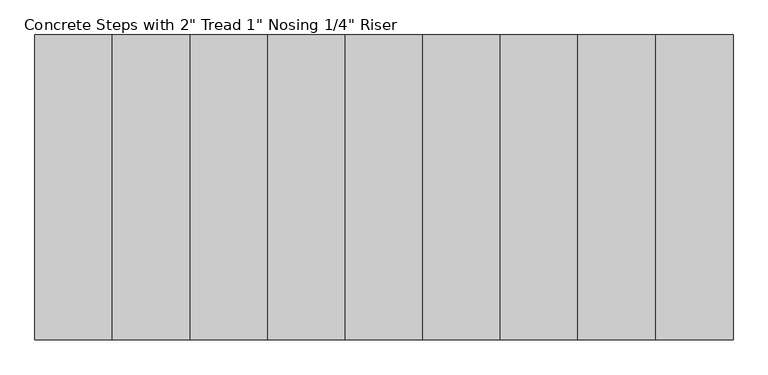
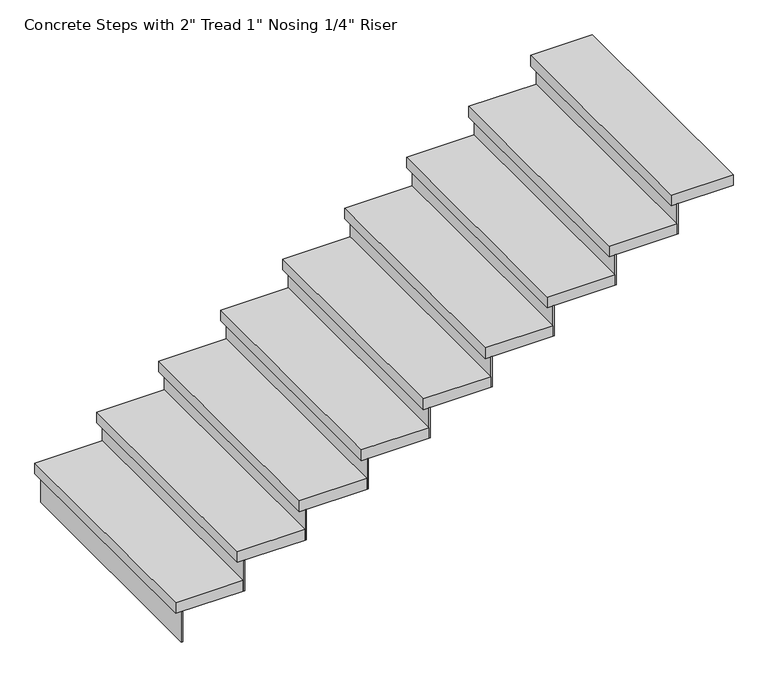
"""IFC4 building model written with IfcOpenShell, lengths in millimetres: stair flight geometry."""

from ifc_helpers import new_model, si_unit, frame, origin, place, context, project, spatial, polyline, outline, extrude, source, transform, mapped, element, save


def stair_flight_ed2f0d5d(model_context):
    return source(origin(), model_context, "Body", "SweptSolid", [
        extrude(outline(polyline([(-14833.3313244, 8376.9937722), (-14839.6813244, 8376.9937722), (-14839.6813244, 9475.3913722), (-14833.3313244, 9475.3913722), (-14833.3313244, 8376.9937722)])), frame((0.0, 0.0, 1690.9142857), z_axis=(0.0, 0.0, 1.0), x_axis=(1.0, 0.0, 0.0)), (0.0, 0.0, 1.0), 145.1428571),
        extrude(outline(polyline([(-14560.2813244, 9475.3913722), (-14560.2813244, 8376.9937722), (-14865.0813244, 8376.9937722), (-14865.0813244, 9475.3913722), (-14560.2813244, 9475.3913722)])), frame((0.0, 0.0, 1836.0571429), z_axis=(0.0, 0.0, 1.0), x_axis=(1.0, 0.0, 0.0)), (0.0, 0.0, 1.0), 50.8),
        extrude(outline(polyline([(-14553.9313244, 8376.9937722), (-14560.2813244, 8376.9937722), (-14560.2813244, 9475.3913722), (-14553.9313244, 9475.3913722), (-14553.9313244, 8376.9937722)])), frame((0.0, 0.0, 1836.0571429), z_axis=(0.0, 0.0, 1.0), x_axis=(1.0, 0.0, 0.0)), (0.0, 0.0, 1.0), 145.1428571),
        extrude(outline(polyline([(-14280.8813244, 9475.3913722), (-14280.8813244, 8376.9937722), (-14585.6813244, 8376.9937722), (-14585.6813244, 9475.3913722), (-14280.8813244, 9475.3913722)])), frame((0.0, 0.0, 1981.2), z_axis=(0.0, 0.0, 1.0), x_axis=(1.0, 0.0, 0.0)), (0.0, 0.0, 1.0), 50.8),
        extrude(outline(polyline([(-14274.5313244, 8376.9937722), (-14280.8813244, 8376.9937722), (-14280.8813244, 9475.3913722), (-14274.5313244, 9475.3913722), (-14274.5313244, 8376.9937722)])), frame((0.0, 0.0, 1981.2), z_axis=(0.0, 0.0, 1.0), x_axis=(1.0, 0.0, 0.0)), (0.0, 0.0, 1.0), 145.1428571),
        extrude(outline(polyline([(-14001.4813244, 9475.3913722), (-14001.4813244, 8376.9937722), (-14306.2813244, 8376.9937722), (-14306.2813244, 9475.3913722), (-14001.4813244, 9475.3913722)])), frame((0.0, 0.0, 2126.3428571), z_axis=(0.0, 0.0, 1.0), x_axis=(1.0, 0.0, 0.0)), (0.0, 0.0, 1.0), 50.8),
        extrude(outline(polyline([(-13995.1313244, 8376.9937722), (-14001.4813244, 8376.9937722), (-14001.4813244, 9475.3913722), (-13995.1313244, 9475.3913722), (-13995.1313244, 8376.9937722)])), frame((0.0, 0.0, 2126.3428571), z_axis=(0.0, 0.0, 1.0), x_axis=(1.0, 0.0, 0.0)), (0.0, 0.0, 1.0), 145.1428571),
        extrude(outline(polyline([(-13722.0813244, 9475.3913722), (-13722.0813244, 8376.9937722), (-14026.8813244, 8376.9937722), (-14026.8813244, 9475.3913722), (-13722.0813244, 9475.3913722)])), frame((0.0, 0.0, 2271.4857143), z_axis=(0.0, 0.0, 1.0), x_axis=(1.0, 0.0, 0.0)), (0.0, 0.0, 1.0), 50.8),
        extrude(outline(polyline([(-13715.7313244, 8376.9937722), (-13722.0813244, 8376.9937722), (-13722.0813244, 9475.3913722), (-13715.7313244, 9475.3913722), (-13715.7313244, 8376.9937722)])), frame((0.0, 0.0, 2271.4857143), z_axis=(0.0, 0.0, 1.0), x_axis=(1.0, 0.0, 0.0)), (0.0, 0.0, 1.0), 145.1428571),
        extrude(outline(polyline([(-13442.6813244, 9475.3913722), (-13442.6813244, 8376.9937722), (-13747.4813244, 8376.9937722), (-13747.4813244, 9475.3913722), (-13442.6813244, 9475.3913722)])), frame((0.0, 0.0, 2416.6285714), z_axis=(0.0, 0.0, 1.0), x_axis=(1.0, 0.0, 0.0)), (0.0, 0.0, 1.0), 50.8),
        extrude(outline(polyline([(-13436.3313244, 8376.9937722), (-13442.6813244, 8376.9937722), (-13442.6813244, 9475.3913722), (-13436.3313244, 9475.3913722), (-13436.3313244, 8376.9937722)])), frame((0.0, 0.0, 2416.6285714), z_axis=(0.0, 0.0, 1.0), x_axis=(1.0, 0.0, 0.0)), (0.0, 0.0, 1.0), 145.1428571),
        extrude(outline(polyline([(-13163.2813244, 9475.3913722), (-13163.2813244, 8376.9937722), (-13468.0813244, 8376.9937722), (-13468.0813244, 9475.3913722), (-13163.2813244, 9475.3913722)])), frame((0.0, 0.0, 2561.7714286), z_axis=(0.0, 0.0, 1.0), x_axis=(1.0, 0.0, 0.0)), (0.0, 0.0, 1.0), 50.8),
        extrude(outline(polyline([(-13156.9313244, 8376.9937722), (-13163.2813244, 8376.9937722), (-13163.2813244, 9475.3913722), (-13156.9313244, 9475.3913722), (-13156.9313244, 8376.9937722)])), frame((0.0, 0.0, 2561.7714286), z_axis=(0.0, 0.0, 1.0), x_axis=(1.0, 0.0, 0.0)), (0.0, 0.0, 1.0), 145.1428571),
        extrude(outline(polyline([(-12883.8813244, 9475.3913722), (-12883.8813244, 8376.9937722), (-13188.6813244, 8376.9937722), (-13188.6813244, 9475.3913722), (-12883.8813244, 9475.3913722)])), frame((0.0, 0.0, 2706.9142857), z_axis=(0.0, 0.0, 1.0), x_axis=(1.0, 0.0, 0.0)), (0.0, 0.0, 1.0), 50.8),
        extrude(outline(polyline([(-12877.5313244, 8376.9937722), (-12883.8813244, 8376.9937722), (-12883.8813244, 9475.3913722), (-12877.5313244, 9475.3913722), (-12877.5313244, 8376.9937722)])), frame((0.0, 0.0, 2706.9142857), z_axis=(0.0, 0.0, 1.0), x_axis=(1.0, 0.0, 0.0)), (0.0, 0.0, 1.0), 145.1428571),
        extrude(outline(polyline([(-12604.4813244, 9475.3913722), (-12604.4813244, 8376.9937722), (-12909.2813244, 8376.9937722), (-12909.2813244, 9475.3913722), (-12604.4813244, 9475.3913722)])), frame((0.0, 0.0, 2852.0571429), z_axis=(0.0, 0.0, 1.0), x_axis=(1.0, 0.0, 0.0)), (0.0, 0.0, 1.0), 50.8),
        extrude(outline(polyline([(-12598.1313244, 8376.9937722), (-12604.4813244, 8376.9937722), (-12604.4813244, 9475.3913722), (-12598.1313244, 9475.3913722), (-12598.1313244, 8376.9937722)])), frame((0.0, 0.0, 2852.0571429), z_axis=(0.0, 0.0, 1.0), x_axis=(1.0, 0.0, 0.0)), (0.0, 0.0, 1.0), 145.1428571),
        extrude(outline(polyline([(-12350.4813244, 9475.3913722), (-12350.4813244, 8376.9937722), (-12629.8813244, 8376.9937722), (-12629.8813244, 9475.3913722), (-12350.4813244, 9475.3913722)])), frame((0.0, 0.0, 2997.2), z_axis=(0.0, 0.0, 1.0), x_axis=(1.0, 0.0, 0.0)), (0.0, 0.0, 1.0), 50.8),
    ])


if __name__ == "__main__":
    model = new_model("IFC4")
    model_context = context("Model", 3, world=origin())
    ifc_project = project(units=[si_unit("LENGTHUNIT", "METRE", prefix="MILLI")], contexts=[model_context])
    site = spatial("IfcSite", under=ifc_project)
    building = spatial("IfcBuilding", under=site)
    placement = place(None, origin())
    stair_flight_shape = stair_flight_ed2f0d5d(model_context)
    element("IfcStairFlight", 1, ObjectType="Concrete Steps with 2\" Tread 1\" Nosing 1/4\" Riser", at=placement, inside=building, context=model_context, shape_type="MappedRepresentation", body=[
        mapped(stair_flight_shape, transform((0.0, 0.0, 0.0), x_axis=(1.0, 0.0, 0.0), y_axis=(0.0, 1.0, 0.0), z_axis=(0.0, 0.0, 1.0))),
    ])
    save(model, "model.ifc")
